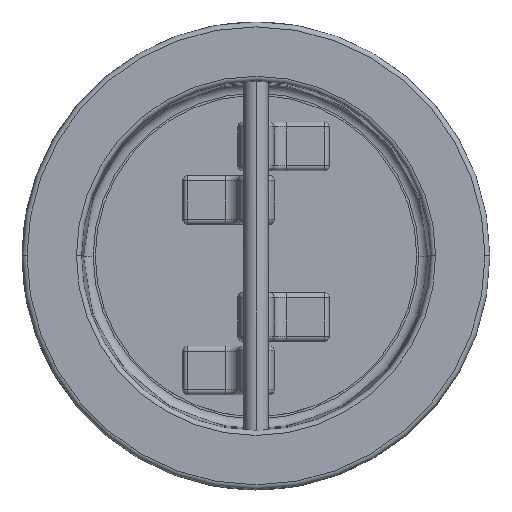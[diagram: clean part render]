
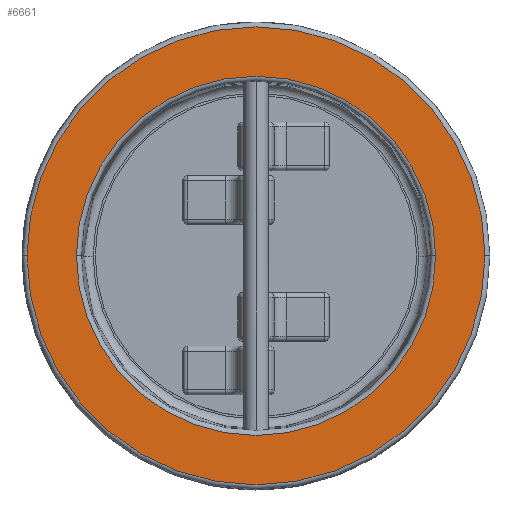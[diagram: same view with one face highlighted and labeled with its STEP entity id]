
A CAD part, top view. The second image highlights one B-rep face of the part: STEP entity #6661.
In plain terms, the highlighted planar face has unit normal (0, 0, 1).
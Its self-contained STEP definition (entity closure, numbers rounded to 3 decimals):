
#755 = ORIENTED_EDGE ( 'NONE', *, *, #6185, .T. ) ;
#1035 = DIRECTION ( 'NONE',  ( 1., 0., 0. ) ) ;
#1419 = AXIS2_PLACEMENT_3D ( 'NONE', #10510, #3586, #14019 ) ;
#1460 = VERTEX_POINT ( 'NONE', #13250 ) ;
#1719 = DIRECTION ( 'NONE',  ( 0., 0., 1. ) ) ;
#1730 = AXIS2_PLACEMENT_3D ( 'NONE', #5543, #2028, #6530 ) ;
#2028 = DIRECTION ( 'NONE',  ( 0., 0., -1. ) ) ;
#2548 = CARTESIAN_POINT ( 'NONE',  ( 94., 0., 35. ) ) ;
#3024 = ORIENTED_EDGE ( 'NONE', *, *, #9582, .T. ) ;
#3586 = DIRECTION ( 'NONE',  ( 0., 0., 1. ) ) ;
#3914 = VERTEX_POINT ( 'NONE', #2548 ) ;
#4342 = AXIS2_PLACEMENT_3D ( 'NONE', #10016, #1719, #10906 ) ;
#5101 = CIRCLE ( 'NONE', #6778, 94. ) ;
#5543 = CARTESIAN_POINT ( 'NONE',  ( 0., 0., 35. ) ) ;
#5792 = EDGE_CURVE ( 'NONE', #1460, #12837, #6586, .T. ) ;
#5802 = CIRCLE ( 'NONE', #1730, 73.724 ) ;
#5994 = CARTESIAN_POINT ( 'NONE',  ( -94., 0., 35. ) ) ;
#6185 = EDGE_CURVE ( 'NONE', #3914, #10356, #7197, .T. ) ;
#6530 = DIRECTION ( 'NONE',  ( 1., 0., 0. ) ) ;
#6586 = CIRCLE ( 'NONE', #10418, 73.724 ) ;
#6661 = ADVANCED_FACE ( 'NONE', ( #9860, #8648 ), #14412, .T. ) ;
#6748 = CARTESIAN_POINT ( 'NONE',  ( 0., 0., 35. ) ) ;
#6778 = AXIS2_PLACEMENT_3D ( 'NONE', #6748, #7585, #1035 ) ;
#7197 = CIRCLE ( 'NONE', #1419, 94. ) ;
#7585 = DIRECTION ( 'NONE',  ( 0., 0., 1. ) ) ;
#8340 = EDGE_LOOP ( 'NONE', ( #755, #3024 ) ) ;
#8648 = FACE_OUTER_BOUND ( 'NONE', #8340, .T. ) ;
#8906 = EDGE_LOOP ( 'NONE', ( #10216, #12487 ) ) ;
#9582 = EDGE_CURVE ( 'NONE', #10356, #3914, #5101, .T. ) ;
#9665 = EDGE_CURVE ( 'NONE', #12837, #1460, #5802, .T. ) ;
#9860 = FACE_BOUND ( 'NONE', #8906, .T. ) ;
#10016 = CARTESIAN_POINT ( 'NONE',  ( 0., 0., 35. ) ) ;
#10216 = ORIENTED_EDGE ( 'NONE', *, *, #9665, .T. ) ;
#10356 = VERTEX_POINT ( 'NONE', #5994 ) ;
#10380 = CARTESIAN_POINT ( 'NONE',  ( 73.724, 0., 35. ) ) ;
#10418 = AXIS2_PLACEMENT_3D ( 'NONE', #12213, #11383, #11086 ) ;
#10510 = CARTESIAN_POINT ( 'NONE',  ( 0., 0., 35. ) ) ;
#10906 = DIRECTION ( 'NONE',  ( 1., 0., 0. ) ) ;
#11086 = DIRECTION ( 'NONE',  ( 1., 0., 0. ) ) ;
#11383 = DIRECTION ( 'NONE',  ( 0., 0., -1. ) ) ;
#12213 = CARTESIAN_POINT ( 'NONE',  ( 0., 0., 35. ) ) ;
#12487 = ORIENTED_EDGE ( 'NONE', *, *, #5792, .T. ) ;
#12837 = VERTEX_POINT ( 'NONE', #10380 ) ;
#13250 = CARTESIAN_POINT ( 'NONE',  ( -73.724, 0., 35. ) ) ;
#14019 = DIRECTION ( 'NONE',  ( 1., 0., 0. ) ) ;
#14412 = PLANE ( 'NONE',  #4342 ) ;
